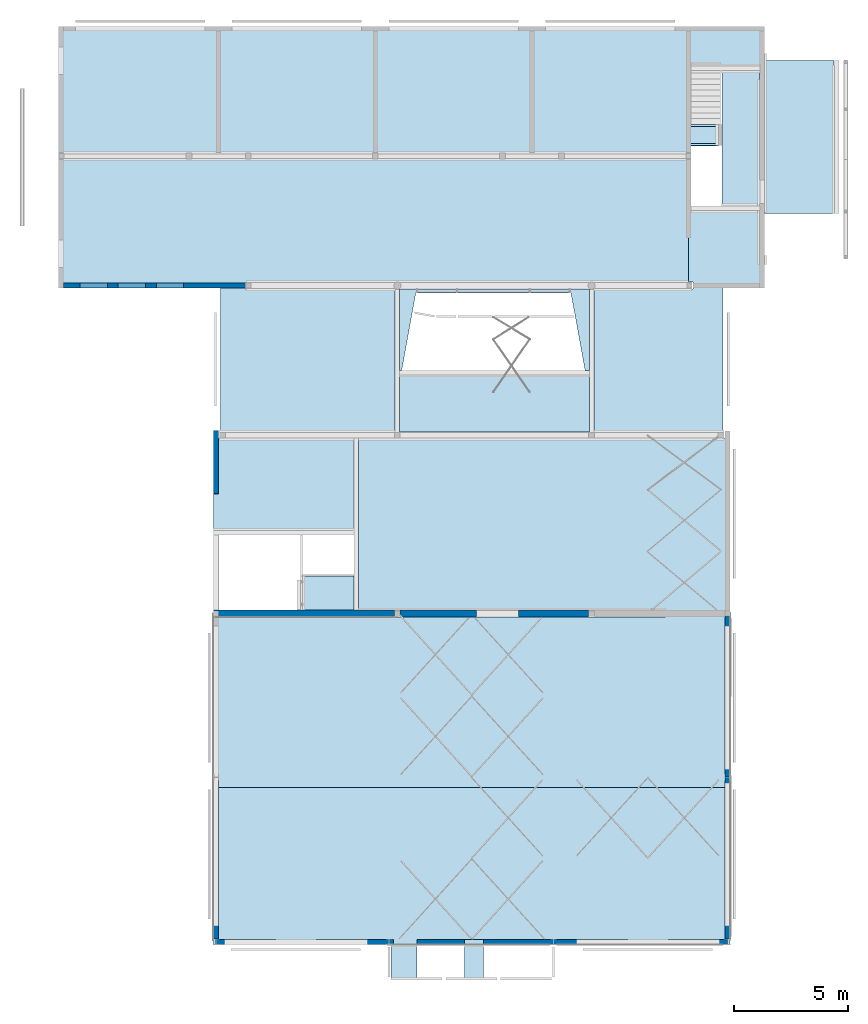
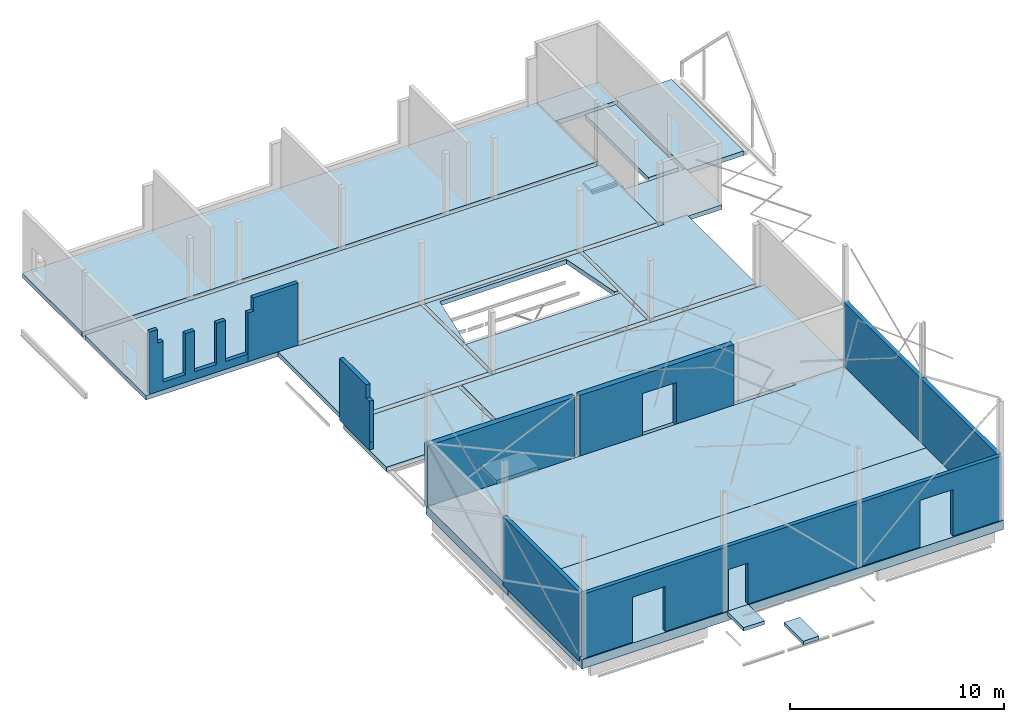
# One storey, part 10 of 14: 18 slabs, 11 walls, 13 openings.
"""IFC2X3 building model written with IfcOpenShell, lengths in millimetres."""

from ifc_helpers import new_model, entity, si_unit, converted_unit, derived_unit, direction, frame, frame_2d, origin, origin_2d_with_axis, place, context, subcontext, project, spatial, polyline, rectangle, outline, extrude, material, layer, layer_set, layer_usage, type_object, element, save


model = new_model("IFC2X3")

# Units and contexts
model_context = context("Model", 3, precision=0.01, world=origin(), true_north=direction((6.123031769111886e-17, 1.0)))
body_context = subcontext(model_context, "Body", "Model", "MODEL_VIEW")
ifc_project = project(units=[si_unit("LENGTHUNIT", "METRE", prefix="MILLI"), si_unit("AREAUNIT", "SQUARE_METRE", prefix="MILLI"), si_unit("VOLUMEUNIT", "CUBIC_METRE"), converted_unit("PLANEANGLEUNIT", "DEGREE", entity("IfcPlaneAngleMeasure", 0.017453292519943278), si_unit("PLANEANGLEUNIT", "RADIAN"), dimensions=[0, 0, 0, 0, 0, 0, 0]), si_unit("MASSUNIT", "GRAM", prefix="KILO"), derived_unit("MASSDENSITYUNIT", [(si_unit("MASSUNIT", "GRAM", prefix="KILO"), 1), (si_unit("LENGTHUNIT", "METRE"), -3)]), derived_unit("IONCONCENTRATIONUNIT", [(si_unit("MASSUNIT", "GRAM", prefix="KILO"), 1), (si_unit("LENGTHUNIT", "METRE"), -3)]), derived_unit("MOMENTOFINERTIAUNIT", [(si_unit("LENGTHUNIT", "METRE"), 4)]), si_unit("TIMEUNIT", "SECOND"), si_unit("FREQUENCYUNIT", "HERTZ"), si_unit("THERMODYNAMICTEMPERATUREUNIT", "DEGREE_CELSIUS"), derived_unit("THERMALTRANSMITTANCEUNIT", [(si_unit("MASSUNIT", "GRAM", prefix="KILO"), 1), (si_unit("THERMODYNAMICTEMPERATUREUNIT", "KELVIN"), -1), (si_unit("TIMEUNIT", "SECOND"), -3)]), derived_unit("THERMALCONDUCTANCEUNIT", [(si_unit("MASSUNIT", "GRAM", prefix="KILO"), 1), (si_unit("THERMODYNAMICTEMPERATUREUNIT", "KELVIN"), -1), (si_unit("TIMEUNIT", "SECOND"), -3), (si_unit("LENGTHUNIT", "METRE"), 1)]), derived_unit("VOLUMETRICFLOWRATEUNIT", [(si_unit("LENGTHUNIT", "METRE", prefix="DECI"), 3), (si_unit("TIMEUNIT", "SECOND"), -1)]), derived_unit("MASSFLOWRATEUNIT", [(si_unit("MASSUNIT", "GRAM", prefix="KILO"), 1), (si_unit("TIMEUNIT", "SECOND"), -1)]), derived_unit("ROTATIONALFREQUENCYUNIT", [(si_unit("TIMEUNIT", "SECOND"), -1)]), si_unit("ELECTRICCURRENTUNIT", "AMPERE"), si_unit("ELECTRICVOLTAGEUNIT", "VOLT"), si_unit("POWERUNIT", "WATT"), si_unit("FORCEUNIT", "NEWTON", prefix="KILO"), si_unit("ILLUMINANCEUNIT", "LUX"), si_unit("LUMINOUSFLUXUNIT", "LUMEN"), si_unit("LUMINOUSINTENSITYUNIT", "CANDELA"), si_unit("ENERGYUNIT", "JOULE"), derived_unit("USERDEFINED", [(si_unit("MASSUNIT", "GRAM", prefix="KILO"), -1), (si_unit("LENGTHUNIT", "METRE"), -2), (si_unit("TIMEUNIT", "SECOND"), 3), (si_unit("LUMINOUSFLUXUNIT", "LUMEN"), 1)]), derived_unit("USERDEFINED", [(si_unit("MASSUNIT", "GRAM", prefix="KILO"), 1), (si_unit("TIMEUNIT", "SECOND"), -3), (si_unit("LENGTHUNIT", "METRE"), 3), (si_unit("ELECTRICCURRENTUNIT", "AMPERE"), -2)]), derived_unit("SOUNDPOWERUNIT", [(si_unit("MASSUNIT", "GRAM", prefix="KILO"), 1), (si_unit("TIMEUNIT", "SECOND"), -3), (si_unit("LENGTHUNIT", "METRE"), 2)]), derived_unit("SOUNDPRESSUREUNIT", [(si_unit("MASSUNIT", "GRAM", prefix="KILO"), 1), (si_unit("LENGTHUNIT", "METRE"), -1), (si_unit("TIMEUNIT", "SECOND"), -2)]), derived_unit("LINEARVELOCITYUNIT", [(si_unit("LENGTHUNIT", "METRE"), 1), (si_unit("TIMEUNIT", "SECOND"), -1)]), si_unit("PRESSUREUNIT", "PASCAL"), derived_unit("USERDEFINED", [(si_unit("MASSUNIT", "GRAM", prefix="KILO"), 1), (si_unit("LENGTHUNIT", "METRE"), -2), (si_unit("TIMEUNIT", "SECOND"), -2)]), derived_unit("LINEARFORCEUNIT", [(si_unit("MASSUNIT", "GRAM", prefix="KILO"), 1), (si_unit("TIMEUNIT", "SECOND"), -2)]), derived_unit("PLANARFORCEUNIT", [(si_unit("MASSUNIT", "GRAM", prefix="KILO"), 1), (si_unit("LENGTHUNIT", "METRE"), -1), (si_unit("TIMEUNIT", "SECOND"), -2)]), derived_unit("SPECIFICHEATCAPACITYUNIT", [(si_unit("THERMODYNAMICTEMPERATUREUNIT", "KELVIN"), -1), (si_unit("LENGTHUNIT", "METRE"), 2), (si_unit("TIMEUNIT", "SECOND"), -2)]), derived_unit("HEATFLUXDENSITYUNIT", [(si_unit("MASSUNIT", "GRAM", prefix="KILO"), 1), (si_unit("TIMEUNIT", "SECOND"), -3)]), derived_unit("HEATINGVALUEUNIT", [(si_unit("LENGTHUNIT", "METRE"), 2), (si_unit("TIMEUNIT", "SECOND"), -2)]), derived_unit("VAPORPERMEABILITYUNIT", [(si_unit("LENGTHUNIT", "METRE"), -1), (si_unit("TIMEUNIT", "SECOND"), 1)]), derived_unit("DYNAMICVISCOSITYUNIT", [(si_unit("MASSUNIT", "GRAM", prefix="KILO"), 1), (si_unit("TIMEUNIT", "SECOND"), -1), (si_unit("LENGTHUNIT", "METRE"), -1)]), derived_unit("THERMALEXPANSIONCOEFFICIENTUNIT", [(si_unit("THERMODYNAMICTEMPERATUREUNIT", "KELVIN"), -1)]), derived_unit("MODULUSOFELASTICITYUNIT", [(si_unit("MASSUNIT", "GRAM", prefix="KILO"), 1), (si_unit("LENGTHUNIT", "METRE"), -1), (si_unit("TIMEUNIT", "SECOND"), -2)]), derived_unit("ISOTHERMALMOISTURECAPACITYUNIT", [(si_unit("MASSUNIT", "GRAM", prefix="KILO"), -1), (si_unit("LENGTHUNIT", "METRE"), 3)]), derived_unit("MOISTUREDIFFUSIVITYUNIT", [(si_unit("TIMEUNIT", "SECOND"), -1), (si_unit("LENGTHUNIT", "METRE"), 2)]), derived_unit("MASSPERLENGTHUNIT", [(si_unit("MASSUNIT", "GRAM", prefix="KILO"), 1), (si_unit("LENGTHUNIT", "METRE"), -1)]), derived_unit("THERMALRESISTANCEUNIT", [(si_unit("MASSUNIT", "GRAM", prefix="KILO"), -1), (si_unit("TIMEUNIT", "SECOND"), 3), (si_unit("THERMODYNAMICTEMPERATUREUNIT", "KELVIN"), 1)]), derived_unit("ACCELERATIONUNIT", [(si_unit("LENGTHUNIT", "METRE"), 1), (si_unit("TIMEUNIT", "SECOND"), -2)]), derived_unit("ANGULARVELOCITYUNIT", [(si_unit("TIMEUNIT", "SECOND"), -1), (si_unit("PLANEANGLEUNIT", "RADIAN"), 1)]), derived_unit("LINEARSTIFFNESSUNIT", [(si_unit("MASSUNIT", "GRAM", prefix="KILO"), 1), (si_unit("TIMEUNIT", "SECOND"), -2)]), derived_unit("WARPINGCONSTANTUNIT", [(si_unit("LENGTHUNIT", "METRE"), 6)]), derived_unit("LINEARMOMENTUNIT", [(si_unit("MASSUNIT", "GRAM", prefix="KILO"), 1), (si_unit("LENGTHUNIT", "METRE"), 1), (si_unit("TIMEUNIT", "SECOND"), -2)]), derived_unit("TORQUEUNIT", [(si_unit("MASSUNIT", "GRAM", prefix="KILO"), 1), (si_unit("LENGTHUNIT", "METRE"), 2), (si_unit("TIMEUNIT", "SECOND"), -2)])], contexts=[model_context])

# Site, building, storey
site_placement = place(None, origin())
site = spatial("IfcSite", under=ifc_project, at=site_placement, Name="Default", CompositionType="ELEMENT")
building_placement = place(site_placement, origin())
building = spatial("IfcBuilding", under=site, at=building_placement, CompositionType="ELEMENT")
storey_placement = place(building_placement, frame((0.0, 0.0, 3730.0)))
storey = spatial("IfcBuildingStorey", under=building, at=storey_placement, Name="V1 1e verd. (bk ruwe vloer)", CompositionType="ELEMENT", Elevation=3729.9999999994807)

# Slabs
ifc_material_1 = material(Name="Druklaag, C20/25 op systeemvloer")
ifc_layer_1 = layer(ifc_material_1, 120.0)
ifc_material_2 = material(Name="Isolatie, op vloer")
ifc_layer_2 = layer(ifc_material_2, 100.0)
ifc_material_3 = material(Name="Druklaag, C20/25 op bekistingsplaat")
ifc_layer_3 = layer(ifc_material_3, 240.0)
ifc_material_4 = material(Name="Beton, prefab - bekistingsplaat schil")
ifc_layer_4 = layer(ifc_material_4, 60.0)
ifc_layer_set_1 = layer_set([ifc_layer_1, ifc_layer_2, ifc_layer_3, ifc_layer_4], Name="Floor:B2_ bekistingsplaatvloer d=300, schil=60")
ifc_layer_usage_1 = layer_usage(ifc_layer_set_1, "AXIS3", "POSITIVE", 0.0)
slab_type_1 = type_object("IfcSlabType", Name="Floor:B2_ bekistingsplaatvloer d=300, schil=60", PredefinedType="FLOOR", material=ifc_layer_set_1)
slab_1_placement = place(storey_placement, origin())
element("IfcSlab", 1, at=slab_1_placement, inside=storey, type_object=slab_type_1, material=ifc_layer_usage_1, Name="Floor:B2_ bekistingsplaatvloer d=300, schil=60", ObjectType="Floor:B2_ bekistingsplaatvloer d=300, schil=60", PredefinedType="FLOOR", context=body_context, shape_type="SweptSolid", body=[
    extrude(outline(polyline([(-5700.0, -11383.025381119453), (1950.0, -11383.025381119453), (1950.0, -8467.895043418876), (1800.0, -8467.895043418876), (1800.0, 8505.960444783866), (1950.0, 8505.960444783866), (1950.0, 11344.959979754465), (-5700.0, 11344.959979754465), (-5700.0, -11383.025381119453)])), frame((17994.026162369, 15544.605013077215, 70.0), z_axis=(0.0, 0.0, -1.0), x_axis=(0.0, 1.0, 0.0)), (0.0, 0.0, 1.0), 519.9999999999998),
])
slab_2_placement = place(storey_placement, origin())
element("IfcSlab", 2, at=slab_2_placement, inside=storey, type_object=slab_type_1, material=ifc_layer_usage_1, Name="Floor:B2_ bekistingsplaatvloer d=300, schil=60", ObjectType="Floor:B2_ bekistingsplaatvloer d=300, schil=60", PredefinedType="FLOOR", context=body_context, shape_type="SweptSolid", body=[
    extrude(rectangle(XDim=6914.000000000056, YDim=22727.99234362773, at=frame_2d((-1.318767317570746e-11, 2.7284841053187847e-12), x_axis=(1.0, 0.0))), frame((17974.989598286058, 6387.605013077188, 70.0), z_axis=(0.0, 0.0, -1.0), x_axis=(0.0, 1.0, 0.0)), (0.0, 0.0, 1.0), 519.9999999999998),
])
ifc_layer_5 = layer(ifc_material_1, 60.0)
ifc_material_5 = material(Name="Beton, prefab - kanaalplaat")
ifc_layer_6 = layer(ifc_material_5, 200.0)
ifc_layer_set_2 = layer_set([ifc_layer_5, ifc_layer_6], Name="Floor:B1_ kanaalplaat d=200+druklaag=60-50-60")
ifc_layer_usage_2 = layer_usage(ifc_layer_set_2, "AXIS3", "POSITIVE", 0.0)
slab_type_2 = type_object("IfcSlabType", Name="Floor:B1_ kanaalplaat d=200+druklaag=60-50-60", PredefinedType="FLOOR", material=ifc_layer_set_2)
slab_3_placement = place(storey_placement, origin())
element("IfcSlab", 3, at=slab_3_placement, inside=storey, type_object=slab_type_2, material=ifc_layer_usage_2, Name="Floor:B1_ kanaalplaat d=200+druklaag=60-50-60", ObjectType="Floor:B1_ kanaalplaat d=200+druklaag=60-50-60", PredefinedType="FLOOR", context=body_context, shape_type="SweptSolid", body=[
    extrude(outline(polyline([(-2470.0, -9955.44029745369), (5090.0, -9955.44029745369), (5090.0, 6397.219730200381), (-2620.0, 6397.219730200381), (-2620.0, 3558.220567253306), (-2470.0, 3558.220567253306), (-2470.0, -9955.44029745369)])), frame((22941.766039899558, 20114.6050130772, 0.0), z_axis=(0.0, 0.0, -1.0), x_axis=(0.0, 1.0, 0.0)), (0.0, 0.0, 1.0), 259.9999999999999),
])
slab_4_placement = place(storey_placement, origin())
element("IfcSlab", 4, at=slab_4_placement, inside=storey, type_object=slab_type_2, material=ifc_layer_usage_2, Name="Floor:B1_ kanaalplaat d=200+druklaag=60-50-60", ObjectType="Floor:B1_ kanaalplaat d=200+druklaag=60-50-60", PredefinedType="FLOOR", context=body_context, shape_type="SweptSolid", body=[
    extrude(outline(polyline([(-4255.312127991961, -2926.1675090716), (2197.6560639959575, -2926.1675090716), (2197.6560639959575, -1836.6355444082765), (2057.656063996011, -1836.6355444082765), (2057.656063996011, 4762.8030534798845), (-4255.312127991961, 4762.803053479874), (-4255.312127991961, -2926.1675090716)])), frame((9837.191868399, 29739.91714106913, 0.0), z_axis=(0.0, 0.0, -1.0), x_axis=(0.0, 1.0, 0.0)), (0.0, 0.0, 1.0), 259.9999999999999),
])
slab_5_placement = place(storey_placement, origin())
element("IfcSlab", 5, at=slab_5_placement, inside=storey, type_object=slab_type_2, material=ifc_layer_usage_2, Name="Floor:B1_ kanaalplaat d=200+druklaag=60-50-60", ObjectType="Floor:B1_ kanaalplaat d=200+druklaag=60-50-60", PredefinedType="FLOOR", context=body_context, shape_type="SweptSolid", body=[
    extrude(outline(polyline([(-1506.999990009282, -10769.640050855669), (4167.000049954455, -10769.640050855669), (4167.000049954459, 16969.339469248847), (-1260.0000299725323, 16969.33946924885), (-1260.0000299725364, -2555.083726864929), (-1400.0000299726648, -2555.0837268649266), (-1400.0000299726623, -3644.6156915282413), (-1506.9999900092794, -3644.6156915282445), (-1506.999990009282, -10769.640050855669)])), frame((10555.64005085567, 33337.5731551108, 0.0), z_axis=(0.0, 0.0, -1.0), x_axis=(0.0, 1.0, 0.0)), (0.0, 0.0, 1.0), 259.9999999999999),
])
slab_6_placement = place(storey_placement, origin())
element("IfcSlab", 6, at=slab_6_placement, inside=storey, type_object=slab_type_2, material=ifc_layer_usage_2, Name="Floor:B1_ kanaalplaat d=200+druklaag=60-50-60", ObjectType="Floor:B1_ kanaalplaat d=200+druklaag=60-50-60", PredefinedType="FLOOR", context=body_context, shape_type="SweptSolid", body=[
    extrude(rectangle(XDim=5574.000000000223, YDim=27738.979520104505, at=origin_2d_with_axis()), frame((13655.4897600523, 40571.573205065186, 0.0), z_axis=(0.0, 0.0, -1.0), x_axis=(0.0, 1.0, 0.0)), (0.0, 0.0, 1.0), 259.9999999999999),
])
slab_7_placement = place(storey_placement, origin())
element("IfcSlab", 7, at=slab_7_placement, inside=storey, type_object=slab_type_2, material=ifc_layer_usage_2, Name="Floor:B1_ kanaalplaat d=200+druklaag=60-50-60", ObjectType="Floor:B1_ kanaalplaat d=200+druklaag=60-50-60", PredefinedType="FLOOR", context=body_context, shape_type="SweptSolid", body=[
    extrude(outline(polyline([(-682.500029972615, -1260.22600438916), (2454.500009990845, -1260.22600438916), (2454.500009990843, 2078.7716704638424), (-939.4999900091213, 2078.77167046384), (-939.4999900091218, 253.77400491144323), (-832.4999900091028, 253.77400491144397), (-832.4999900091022, -1072.3196709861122), (-682.5000299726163, -1072.319670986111), (-682.500029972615, -1260.22600438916)])), frame((28785.205524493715, 32770.0731950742, 0.0), z_axis=(0.0, 0.0, -1.0), x_axis=(0.0, 1.0, 0.0)), (0.0, 0.0, 1.0), 259.9999999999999),
])
slab_8_placement = place(storey_placement, origin())
element("IfcSlab", 8, at=slab_8_placement, inside=storey, type_object=slab_type_2, material=ifc_layer_usage_2, Name="Floor:B1_ kanaalplaat d=200+druklaag=60-50-60", ObjectType="Floor:B1_ kanaalplaat d=200+druklaag=60-50-60", PredefinedType="FLOOR", context=body_context, shape_type="SweptSolid", body=[
    extrude(rectangle(XDim=1731.2561455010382, YDim=3338.9976748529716, at=frame_2d((4.320099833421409e-12, -2.1600499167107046e-12), x_axis=(1.0, 0.0))), frame((29194.478357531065, 42492.94513231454, 0.0), z_axis=(0.0, 0.0, -1.0), x_axis=(0.0, 1.0, 0.0)), (0.0, 0.0, 1.0), 259.9999999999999),
])
slab_9_placement = place(storey_placement, origin())
element("IfcSlab", 9, at=slab_9_placement, inside=storey, type_object=slab_type_2, material=ifc_layer_usage_2, Name="Floor:B1_ kanaalplaat d=200+druklaag=60-50-60", ObjectType="Floor:B1_ kanaalplaat d=200+druklaag=60-50-60", PredefinedType="FLOOR", context=body_context, shape_type="SweptSolid", body=[
    extrude(rectangle(XDim=106.99999999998, YDim=3697.7438544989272, at=frame_2d((1.2995826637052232e-11, 6.480149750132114e-12), x_axis=(1.0, 0.0))), frame((27578.479520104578, 39643.44513231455, -260.0)), (0.0, 0.0, 1.0), 259.9999999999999),
    extrude(rectangle(XDim=1651.4577855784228, YDim=5922.743854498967, at=frame_2d((8.640199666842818e-12, 0.0), x_axis=(1.0, 0.0))), frame((29814.24830216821, 38425.94513231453, -260.0), z_axis=(0.0, 0.0, 1.0), x_axis=(-1.0, 0.0, 0.0)), (0.0, 0.0, 1.0), 259.9999999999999),
    extrude(rectangle(XDim=106.99999999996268, YDim=2030.000000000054, at=frame_2d((2.1671553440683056e-12, -2.1600499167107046e-12), x_axis=(1.0, 0.0))), frame((27578.479520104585, 36479.57320506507, -260.0)), (0.0, 0.0, 1.0), 259.9999999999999),
])
slab_10_placement = place(storey_placement, origin())
element("IfcSlab", 10, at=slab_10_placement, inside=storey, type_object=slab_type_2, material=ifc_layer_usage_2, Name="Floor:B1_ kanaalplaat d=200+druklaag=60-50-60", ObjectType="Floor:B1_ kanaalplaat d=200+druklaag=60-50-60", PredefinedType="FLOOR", context=body_context, shape_type="SweptSolid", body=[
    extrude(rectangle(XDim=2498.14138972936, YDim=8349.991685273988, at=frame_2d((0.0, 9.094947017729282e-13), x_axis=(1.0, 0.0))), frame((18974.990764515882, 26733.675707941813, 0.0), z_axis=(0.0, 0.0, -1.0), x_axis=(0.0, 1.0, 0.0)), (0.0, 0.0, 1.0), 259.9999999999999),
])
slab_11_placement = place(storey_placement, origin())
element("IfcSlab", 11, at=slab_11_placement, inside=storey, type_object=slab_type_2, material=ifc_layer_usage_2, Name="Floor:B1_ kanaalplaat d=200+druklaag=60-50-60", ObjectType="Floor:B1_ kanaalplaat d=200+druklaag=60-50-60", PredefinedType="FLOOR", context=body_context, shape_type="SweptSolid", body=[
    extrude(outline(polyline([(-4255.312127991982, -3350.631699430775), (2057.6560639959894, -3350.631699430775), (2057.6560639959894, 1012.2675469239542), (2197.6560639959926, 1012.2675469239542), (2197.656063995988, 2338.3641525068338), (-4255.312127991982, 2338.364152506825), (-4255.312127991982, -3350.631699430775)])), frame((26700.618306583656, 29739.917141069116, 0.0), z_axis=(0.0, 0.0, -1.0), x_axis=(0.0, 1.0, 0.0)), (0.0, 0.0, 1.0), 259.9999999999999),
])
slab_12_placement = place(storey_placement, origin())
element("IfcSlab", 12, at=slab_12_placement, inside=storey, type_object=slab_type_2, material=ifc_layer_usage_2, Name="Floor:B1_ kanaalplaat d=200+druklaag=60-50-60", ObjectType="Floor:B1_ kanaalplaat d=200+druklaag=60-50-60", PredefinedType="FLOOR", context=body_context, shape_type="SweptSolid", body=[
    extrude(outline(polyline([(-1747.0408215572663, -4150.36794028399), (1837.785980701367, -4150.36794028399), (1837.7859807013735, 4199.623744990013), (-1747.0408215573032, 4199.623744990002), (-1747.040821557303, 4014.7304436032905), (1656.296408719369, 3393.3376238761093), (1656.2949161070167, -3443.893725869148), (-1747.0408215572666, -4062.6859510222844), (-1747.0408215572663, -4150.36794028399)])), frame((18950.36286216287, 29949.78722436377, 0.0), z_axis=(0.0, 0.0, -1.0), x_axis=(0.0, 1.0, 0.0)), (0.0, 0.0, 1.0), 259.9999999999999),
])
slab_13_placement = place(storey_placement, origin())
element("IfcSlab", 13, at=slab_13_placement, inside=storey, type_object=slab_type_2, material=ifc_layer_usage_2, Name="Floor:B1_ kanaalplaat d=200+druklaag=60-50-60", ObjectType="Floor:B1_ kanaalplaat d=200+druklaag=60-50-60", PredefinedType="FLOOR", context=body_context, shape_type="SweptSolid", body=[
    extrude(rectangle(XDim=6738.986008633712, YDim=3055.999999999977, at=frame_2d((-2.0463630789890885e-12, 2.1600499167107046e-12), x_axis=(1.0, 0.0))), frame((32401.977194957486, 38492.34052158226, 0.0), z_axis=(0.0, 0.0, -1.0), x_axis=(0.0, 1.0, 0.0)), (0.0, 0.0, 1.0), 259.9999999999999),
])
slab_14_placement = place(storey_placement, origin())
element("IfcSlab", 14, at=slab_14_placement, inside=storey, type_object=slab_type_2, material=ifc_layer_usage_2, Name="Floor:B1_ kanaalplaat d=200+druklaag=60-50-60", ObjectType="Floor:B1_ kanaalplaat d=200+druklaag=60-50-60", PredefinedType="FLOOR", context=body_context, shape_type="SweptSolid", body=[
    extrude(rectangle(XDim=1482.4447813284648, YDim=2271.386818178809, at=frame_2d((2.1600499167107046e-12, 0.0), x_axis=(1.0, 0.0))), frame((11650.632333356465, 18398.527403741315, 0.0), z_axis=(0.0, 0.0, -1.0), x_axis=(0.0, 1.0, 0.0)), (0.0, 0.0, 1.0), 259.9999999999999),
])
slab_15_placement = place(storey_placement, origin())
element("IfcSlab", 15, at=slab_15_placement, inside=storey, type_object=slab_type_2, material=ifc_layer_usage_2, Name="Floor:B1_ kanaalplaat d=200+druklaag=60-50-60", ObjectType="Floor:B1_ kanaalplaat d=200+druklaag=60-50-60", PredefinedType="FLOOR", context=body_context, shape_type="SweptSolid", body=[
    extrude(rectangle(XDim=4038.9374440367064, YDim=6165.130337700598, at=origin_2d_with_axis()), frame((9693.565950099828, 23185.13629105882, 0.0), z_axis=(0.0, 0.0, -1.0), x_axis=(0.0, 1.0, 0.0)), (0.0, 0.0, 1.0), 259.9999999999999),
])
ifc_material_6 = material(Name="Beton, prefab")
ifc_layer_7 = layer(ifc_material_6, 200.0)
ifc_layer_set_3 = layer_set([ifc_layer_7], Name="Floor:PBO prefab betonplaat d=200 (bordes)")
ifc_layer_usage_3 = layer_usage(ifc_layer_set_3, "AXIS3", "POSITIVE", 0.0)
slab_type_3 = type_object("IfcSlabType", Name="Floor:PBO prefab betonplaat d=200 (bordes)", PredefinedType="FLOOR", material=ifc_layer_set_3)
slab_16_placement = place(storey_placement, origin())
element("IfcSlab", 16, at=slab_16_placement, inside=storey, type_object=slab_type_3, material=ifc_layer_usage_3, Name="Floor:PBO prefab betonplaat d=200 (bordes)", ObjectType="Floor:PBO prefab betonplaat d=200 (bordes)", PredefinedType="FLOOR", context=body_context, shape_type="SweptSolid", body=[
    extrude(rectangle(XDim=1539.0876977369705, YDim=1135.559808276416, at=origin_2d_with_axis()), frame((14991.836473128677, 2129.061164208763, 120.0), z_axis=(0.0, 0.0, -1.0), x_axis=(0.0, 1.0, 0.0)), (0.0, 0.0, 1.0), 200.0),
])
slab_17_placement = place(storey_placement, origin())
element("IfcSlab", 17, at=slab_17_placement, inside=storey, type_object=slab_type_3, material=ifc_layer_usage_3, Name="Floor:PBO prefab betonplaat d=200 (bordes)", ObjectType="Floor:PBO prefab betonplaat d=200 (bordes)", PredefinedType="FLOOR", context=body_context, shape_type="SweptSolid", body=[
    extrude(rectangle(XDim=1785.0876977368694, YDim=837.9853499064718, at=frame_2d((-1.1368683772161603e-13, -1.0800249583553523e-12), x_axis=(1.0, 0.0))), frame((18063.59531794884, 2252.0611642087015, -1780.0), z_axis=(0.0, 0.0, -1.0), x_axis=(0.0, 1.0, 0.0)), (0.0, 0.0, 1.0), 200.0),
])

# Slab, opening
ifc_layer_8 = layer(ifc_material_6, 220.0)
ifc_layer_set_4 = layer_set([ifc_layer_8], Name="Floor:_ prefab betonplaat d=220 (bordes) 2")
ifc_layer_usage_4 = layer_usage(ifc_layer_set_4, "AXIS3", "POSITIVE", 0.0)
slab_type_4 = type_object("IfcSlabType", Name="Floor:_ prefab betonplaat d=220 (bordes) 2", PredefinedType="FLOOR", material=ifc_layer_set_4)
slab_18_placement = place(storey_placement, origin())
slab_18 = element("IfcSlab", 18, at=slab_18_placement, inside=storey, type_object=slab_type_4, material=ifc_layer_usage_4, Name="Floor:_ prefab betonplaat d=220 (bordes) 2", ObjectType="Floor:_ prefab betonplaat d=220 (bordes) 2", PredefinedType="FLOOR", context=body_context, shape_type="SweptSolid", body=[
    extrude(outline(polyline([(-94.0, -556.0), (21.0, -556.0), (21.0, -466.0), (126.0, -466.0), (126.0, 274.0), (21.0, 274.0), (21.0, 364.0), (-74.0, 364.0), (-74.0, 384.0), (-94.0, 384.0), (-94.0, -556.0)])), frame((27485.979520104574, 38478.573205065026, -1956.2999999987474), z_axis=(1.0, 0.0, 0.0), x_axis=(0.0, 0.0, 1.0)), (0.0, 0.0, 1.0), 1362.5398892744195),
])
opening_1_placement = place(slab_18_placement, origin())
element("IfcOpeningElement", 19, at=opening_1_placement, cuts=slab_18, Name="Floor:_ prefab betonplaat d=220 (bordes) 2", ObjectType="Opening", context=body_context, shape_type="SweptSolid", body=[
    extrude(outline(polyline([(-72.85714285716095, -102.1428571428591), (37.14285714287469, -102.1428571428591), (37.14285714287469, 2.857142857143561), (37.14285714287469, 97.8571428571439), (17.142857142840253, 97.8571428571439), (17.142857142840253, 2.8571428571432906), (-72.85714285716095, 2.8571428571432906), (-72.85714285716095, -102.1428571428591)])), frame((27485.979520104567, 38131.71606220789, -1932.442857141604), z_axis=(1.0, 0.0, 0.0), x_axis=(0.0, -1.0, 0.0)), (0.0, 0.0, 1.0), 1482.539889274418),
    extrude(rectangle(XDim=1482.539889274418, YDim=90.00000000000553, at=frame_2d((0.0, 2.1671553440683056e-12), x_axis=(1.0, 0.0))), frame((28227.249464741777, 38989.573205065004, -1935.2999999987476), z_axis=(0.0, 0.0, 1.0), x_axis=(-1.0, 0.0, 0.0)), (0.0, 0.0, 1.0), 104.99999999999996),
])

# Wall, openings
ifc_material_7 = material(Name="Kalkzandsteen, lijmwerk CS12")
ifc_layer_9 = layer(ifc_material_7, 214.0)
ifc_layer_set_5 = layer_set([ifc_layer_9], Name="Basic Wall:bt_kzst 214")
ifc_layer_usage_5 = layer_usage(ifc_layer_set_5, "AXIS2", "POSITIVE", -107.0)
wall_type_1 = type_object("IfcWallType", Name="Basic Wall:bt_kzst 214", PredefinedType="STANDARD", material=ifc_layer_set_5)
wall_1_placement = place(storey_placement, frame((0.0, 31937.573205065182, 0.0)))
wall_1 = element("IfcWallStandardCase", 20, at=wall_1_placement, inside=storey, type_object=wall_type_1, material=ifc_layer_usage_5, Name="Basic Wall:bt_kzst 214", ObjectType="Basic Wall:bt_kzst 214", context=body_context, shape_type="SweptSolid", body=[
    extrude(rectangle(XDim=5285.648410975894, YDim=214.00000000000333, at=frame_2d((2642.824205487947, -3.481659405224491e-13), x_axis=(-1.0, 0.0))), origin(), (0.0, 0.0, 1.0), 3539.9999999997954),
])
opening_2_placement = place(wall_1_placement, origin())
element("IfcOpeningElement", 21, at=opening_2_placement, cuts=wall_1, Name="Basic Wall:bt_kzst 214", ObjectType="Opening", context=body_context, shape_type="SweptSolid", body=[
    extrude(rectangle(XDim=762.0000000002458, YDim=4859.996607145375, at=frame_2d((5.400124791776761e-13, 0.0), x_axis=(1.0, 0.0))), frame((2855.650107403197, -107.0, 3159.0), z_axis=(0.0, 1.0, 0.0), x_axis=(0.0, 0.0, -1.0)), (0.0, 0.0, 1.0), 214.00000000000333),
])
opening_3_placement = place(wall_1_placement, frame((0.0, -31937.573205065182, 0.0)))
element("IfcOpeningElement", 22, at=opening_3_placement, cuts=wall_1, Name="Basic Wall:bt_kzst 214", ObjectType="Opening", context=body_context, shape_type="SweptSolid", body=[
    extrude(rectangle(XDim=2340.0, YDim=1200.284760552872, at=frame_2d((2.2737367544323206e-13, 1.1368683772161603e-13), x_axis=(1.0, 0.0))), frame((1325.8329450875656, 30520.573205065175, 1608.0), z_axis=(0.0, 1.0, 0.0), x_axis=(0.0, 0.0, -1.0)), (0.0, 0.0, 1.0), 3048.0),
])
opening_4_placement = place(wall_1_placement, frame((0.0, -31937.573205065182, 0.0)))
element("IfcOpeningElement", 23, at=opening_4_placement, cuts=wall_1, Name="Basic Wall:bt_kzst 214", ObjectType="Opening", context=body_context, shape_type="SweptSolid", body=[
    extrude(rectangle(XDim=2340.0, YDim=1200.2847605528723, at=frame_2d((2.2737367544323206e-13, 0.0), x_axis=(1.0, 0.0))), frame((3005.720452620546, 30520.573205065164, 1608.0), z_axis=(0.0, 1.0, 0.0), x_axis=(0.0, 0.0, -1.0)), (0.0, 0.0, 1.0), 3048.0),
])
opening_5_placement = place(wall_1_placement, frame((0.0, -31937.573205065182, 0.0)))
element("IfcOpeningElement", 24, at=opening_5_placement, cuts=wall_1, Name="Basic Wall:bt_kzst 214", ObjectType="Opening", context=body_context, shape_type="SweptSolid", body=[
    extrude(rectangle(XDim=2340.0, YDim=1200.2847605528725, at=frame_2d((2.2737367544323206e-13, -2.8421709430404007e-13), x_axis=(1.0, 0.0))), frame((4685.607960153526, 30520.573205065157, 1608.0), z_axis=(0.0, 1.0, 0.0), x_axis=(0.0, 0.0, -1.0)), (0.0, 0.0, 1.0), 3048.0),
])

wall_2_placement = place(storey_placement, frame((5285.648410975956, 31937.573205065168, 0.0)))
wall_2 = element("IfcWallStandardCase", 25, at=wall_2_placement, inside=storey, type_object=wall_type_1, material=ifc_layer_usage_5, Name="Basic Wall:bt_kzst 214", ObjectType="Basic Wall:bt_kzst 214", context=body_context, shape_type="SweptSolid", body=[
    extrude(rectangle(XDim=2714.907913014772, YDim=214.00000000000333, at=frame_2d((1357.453956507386, -1.2789769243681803e-13), x_axis=(-1.0, 0.0))), origin(), (0.0, 0.0, 1.0), 3539.9999999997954),
])
opening_6_placement = place(wall_2_placement, origin())
element("IfcOpeningElement", 26, at=opening_6_placement, cuts=wall_2, Name="Basic Wall:bt_kzst 214", ObjectType="Opening", context=body_context, shape_type="SweptSolid", body=[
    extrude(rectangle(XDim=762.0000000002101, YDim=300.0000000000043, at=frame_2d((0.0, 5.542233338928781e-13), x_axis=(1.0, 0.0))), frame((150.0, -107.0, 3159.0), z_axis=(0.0, 1.0, 0.0), x_axis=(0.0, 0.0, -1.0)), (0.0, 0.0, 1.0), 214.00000000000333),
])
opening_7_placement = place(wall_2_placement, origin())
element("IfcOpeningElement", 27, at=opening_7_placement, cuts=wall_2, Name="Basic Wall:bt_kzst 214", ObjectType="Opening", context=body_context, shape_type="SweptSolid", body=[
    extrude(rectangle(XDim=2340.0, YDim=1200.2847605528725, at=frame_2d((2.2737367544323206e-13, -2.8421709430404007e-13), x_axis=(1.0, 0.0))), frame((-600.0404508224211, -1417.0, 1608.0), z_axis=(0.0, 1.0, 0.0), x_axis=(0.0, 0.0, -1.0)), (0.0, 0.0, 1.0), 3048.0),
])

wall_3_placement = place(storey_placement, frame((6718.000781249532, 25558.577818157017, 0.0), z_axis=(0.0, 0.0, 1.0), x_axis=(0.0, -1.0, 0.0)))
wall_3 = element("IfcWallStandardCase", 28, at=wall_3_placement, inside=storey, type_object=wall_type_1, material=ifc_layer_usage_5, Name="Basic Wall:bt_kzst 214", ObjectType="Basic Wall:bt_kzst 214", context=body_context, shape_type="SweptSolid", body=[
    extrude(rectangle(XDim=2787.4420367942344, YDim=214.00000000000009, at=frame_2d((1393.7210183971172, -6.323830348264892e-13), x_axis=(-1.0, 0.0))), origin(), (0.0, 0.0, 1.0), 3539.9999999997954),
])
opening_8_placement = place(wall_3_placement, origin())
element("IfcOpeningElement", 29, at=opening_8_placement, cuts=wall_3, Name="Basic Wall:bt_kzst 214", ObjectType="Opening", context=body_context, shape_type="SweptSolid", body=[
    extrude(rectangle(XDim=762.0000000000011, YDim=300.00000000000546, at=frame_2d((-5.400124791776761e-13, -2.1742607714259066e-12), x_axis=(1.0, 0.0))), frame((2637.4420367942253, -107.0, 3159.0), z_axis=(0.0, 1.0, 0.0), x_axis=(0.0, 0.0, -1.0)), (0.0, 0.0, 1.0), 213.999999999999),
])
opening_9_placement = place(wall_3_placement, origin())
element("IfcOpeningElement", 30, at=opening_9_placement, cuts=wall_3, Name="Basic Wall:bt_kzst 214", ObjectType="Opening", context=body_context, shape_type="SweptSolid", body=[
    extrude(rectangle(XDim=2348.000000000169, YDim=1760.092701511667, at=frame_2d((-5.684341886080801e-13, -2.1600499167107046e-12), x_axis=(1.0, 0.0))), frame((3665.8603693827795, -1417.0, 1604.0), z_axis=(0.0, 1.0, 0.0), x_axis=(0.0, 0.0, -1.0)), (0.0, 0.0, 1.0), 3048.0),
])

# Wall
ifc_layer_usage_6 = layer_usage(ifc_layer_set_5, "AXIS2", "NEGATIVE", 107.0)
wall_4_placement = place(storey_placement, frame((6718.0007812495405, 3162.605013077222, -150.0), z_axis=(0.0, 0.0, 1.0), x_axis=(0.0, 1.0, 0.0)))
element("IfcWallStandardCase", 31, at=wall_4_placement, inside=storey, type_object=wall_type_1, material=ifc_layer_usage_6, Name="Basic Wall:bt_kzst 214", ObjectType="Basic Wall:bt_kzst 214", context=body_context, shape_type="SweptSolid", body=[
    extrude(rectangle(XDim=7135.749999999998, YDim=213.99999999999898, at=frame_2d((3567.874999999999, 2.1316282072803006e-14), x_axis=(-1.0, 0.0))), origin(), (0.0, 0.0, 1.0), 3929.9999999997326),
])

# Wall, opening
wall_5_placement = place(storey_placement, frame((14336.305252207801, 3037.6050130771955, 120.0)))
wall_5 = element("IfcWallStandardCase", 32, at=wall_5_placement, inside=storey, type_object=wall_type_1, material=ifc_layer_usage_5, Name="Basic Wall:bt_kzst 214", ObjectType="Basic Wall:bt_kzst 214", context=body_context, shape_type="SweptSolid", body=[
    extrude(rectangle(XDim=7233.374809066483, YDim=214.00000000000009, at=frame_2d((3616.6874045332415, -7.105427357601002e-15), x_axis=(1.0, 0.0))), origin(), (0.0, 0.0, 1.0), 3659.9999999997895),
])
opening_10_placement = place(wall_5_placement, frame((-14336.305252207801, -3037.6050130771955, -120.0)))
element("IfcOpeningElement", 33, at=opening_10_placement, cuts=wall_5, Name="Basic Wall:bt_kzst 214", ObjectType="Opening", context=body_context, shape_type="SweptSolid", body=[
    extrude(rectangle(XDim=2450.000000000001, YDim=1034.055438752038, at=frame_2d((-5.684341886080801e-13, 0.0), x_axis=(1.0, 0.0))), frame((15042.58914619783, 2637.605013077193, 1225.0), z_axis=(0.0, 1.0, 0.0), x_axis=(0.0, 0.0, -1.0)), (0.0, 0.0, 1.0), 800.0),
])

wall_6_placement = place(storey_placement, frame((21577.18006127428, 3037.6050130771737, 120.0)))
wall_6 = element("IfcWallStandardCase", 34, at=wall_6_placement, inside=storey, type_object=wall_type_1, material=ifc_layer_usage_5, Name="Basic Wall:bt_kzst 214", ObjectType="Basic Wall:bt_kzst 214", context=body_context, shape_type="SweptSolid", body=[
    extrude(rectangle(XDim=7651.055708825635, YDim=214.00000000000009, at=frame_2d((3825.5278544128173, -4.973799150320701e-14), x_axis=(1.0, 0.0))), origin(), (0.0, 0.0, 1.0), 3659.9999999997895),
])
opening_11_placement = place(wall_6_placement, frame((-21577.18006127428, -3037.6050130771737, -120.0)))
element("IfcOpeningElement", 35, at=opening_11_placement, cuts=wall_6, Name="Basic Wall:bt_kzst 214", ObjectType="Opening", context=body_context, shape_type="SweptSolid", body=[
    extrude(rectangle(XDim=2658.0000000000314, YDim=1760.086918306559, at=frame_2d((-2.1600499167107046e-12, 4.547473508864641e-13), x_axis=(0.0, 1.0))), frame((25733.242150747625, 1406.6050130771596, 1449.0), z_axis=(0.0, 1.0, 0.0), x_axis=(1.0, 0.0, 0.0)), (0.0, 0.0, 1.0), 3048.0),
])

# Walls
wall_7_placement = place(storey_placement, frame((29231.985770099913, 17494.605013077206, 120.0), z_axis=(0.0, 0.0, 1.0), x_axis=(0.0, -1.0, 0.0)))
element("IfcWallStandardCase", 36, at=wall_7_placement, inside=storey, type_object=wall_type_1, material=ifc_layer_usage_5, Name="Basic Wall:bt_kzst 214", ObjectType="Basic Wall:bt_kzst 214", context=body_context, shape_type="SweptSolid", body=[
    extrude(rectangle(XDim=7196.250000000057, YDim=214.00000000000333, at=frame_2d((3598.1250000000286, 2.1174173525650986e-12), x_axis=(-1.0, 0.0))), origin(), (0.0, 0.0, 1.0), 3660.000000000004),
])
wall_8_placement = place(storey_placement, frame((29231.985770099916, 3162.6050130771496, 120.0), z_axis=(0.0, 0.0, 1.0), x_axis=(0.0, 1.0, 0.0)))
element("IfcWallStandardCase", 37, at=wall_8_placement, inside=storey, type_object=wall_type_1, material=ifc_layer_usage_6, Name="Basic Wall:bt_kzst 214", ObjectType="Basic Wall:bt_kzst 214", context=body_context, shape_type="SweptSolid", body=[
    extrude(rectangle(XDim=7135.749999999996, YDim=214.00000000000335, at=frame_2d((3567.874999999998, 2.842170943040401e-14), x_axis=(-1.0, 0.0))), origin(), (0.0, 0.0, 1.0), 3660.000000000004),
])

# Wall, opening
wall_9_placement = place(storey_placement, frame((6721.750781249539, 3037.60501307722, 120.0)))
wall_9 = element("IfcWallStandardCase", 38, at=wall_9_placement, inside=storey, type_object=wall_type_1, material=ifc_layer_usage_5, Name="Basic Wall:bt_kzst 214", ObjectType="Basic Wall:bt_kzst 214", context=body_context, shape_type="SweptSolid", body=[
    extrude(rectangle(XDim=7614.554470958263, YDim=214.00000000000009, at=frame_2d((3807.2772354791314, 7.105427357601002e-15), x_axis=(-1.0, 0.0))), origin(), (0.0, 0.0, 1.0), 3659.9999999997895),
])
opening_12_placement = place(wall_9_placement, frame((-6721.750781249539, -3037.60501307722, -120.0)))
element("IfcOpeningElement", 39, at=opening_12_placement, cuts=wall_9, Name="Basic Wall:bt_kzst 214", ObjectType="Opening", context=body_context, shape_type="SweptSolid", body=[
    extrude(rectangle(XDim=2614.9999999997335, YDim=1760.0883832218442, at=frame_2d((5.684341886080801e-13, 1.0800249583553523e-12), x_axis=(1.0, 0.0))), frame((10226.048928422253, 1620.605013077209, 1377.5000000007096), z_axis=(0.0, 1.0, 0.0), x_axis=(0.0, 0.0, -1.0)), (0.0, 0.0, 1.0), 3047.9999999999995),
])

# Wall
ifc_layer_10 = layer(ifc_material_7, 300.0)
ifc_layer_set_6 = layer_set([ifc_layer_10], Name="Basic Wall:bt_kzst 300")
ifc_layer_usage_7 = layer_usage(ifc_layer_set_6, "AXIS2", "POSITIVE", -150.0)
wall_type_2 = type_object("IfcWallType", Name="Basic Wall:bt_kzst 300", PredefinedType="STANDARD", material=ifc_layer_set_6)
wall_10_placement = place(storey_placement, frame((6611.0007812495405, 17494.60501307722, 0.0)))
element("IfcWallStandardCase", 40, at=wall_10_placement, inside=storey, type_object=wall_type_2, material=ifc_layer_usage_7, Name="Basic Wall:bt_kzst 300", ObjectType="Basic Wall:bt_kzst 300", context=body_context, shape_type="SweptSolid", body=[
    extrude(rectangle(XDim=7963.862327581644, YDim=300.00000000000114, at=frame_2d((3981.931163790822, 4.547473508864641e-13), x_axis=(-1.0, 0.0))), origin(), (0.0, 0.0, 1.0), 3524.999999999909),
])

# Wall, opening
ifc_layer_usage_8 = layer_usage(ifc_layer_set_6, "AXIS2", "NEGATIVE", 150.0)
wall_11_placement = place(storey_placement, frame((23124.986607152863, 17494.605013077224, 0.0), z_axis=(0.0, 0.0, 1.0), x_axis=(-1.0, 0.0, 0.0)))
wall_11 = element("IfcWallStandardCase", 41, at=wall_11_placement, inside=storey, type_object=wall_type_2, material=ifc_layer_usage_8, Name="Basic Wall:bt_kzst 300", ObjectType="Basic Wall:bt_kzst 300", context=body_context, shape_type="SweptSolid", body=[
    extrude(rectangle(XDim=8300.123498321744, YDim=300.00000000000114, at=frame_2d((4150.061749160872, 1.2789769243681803e-13), x_axis=(-1.0, 0.0))), origin(), (0.0, 0.0, 1.0), 3524.999999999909),
])
opening_13_placement = place(wall_11_placement, frame((23124.986607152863, 17494.605013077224, 0.0), z_axis=(0.0, 0.0, 1.0), x_axis=(-1.0, 0.0, 0.0)))
element("IfcOpeningElement", 42, at=opening_13_placement, cuts=wall_11, Name="Basic Wall:bt_kzst 300", ObjectType="Opening", context=body_context, shape_type="SweptSolid", body=[
    extrude(rectangle(XDim=2450.000000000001, YDim=1834.0970874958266, at=frame_2d((0.0, -5.684341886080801e-13), x_axis=(0.0, 1.0))), frame((19109.014012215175, 17894.60501307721, 1225.0), z_axis=(0.0, -1.0, 0.0), x_axis=(-1.0, 0.0, 0.0)), (0.0, 0.0, 1.0), 800.0),
])

save(model, "model.ifc")
